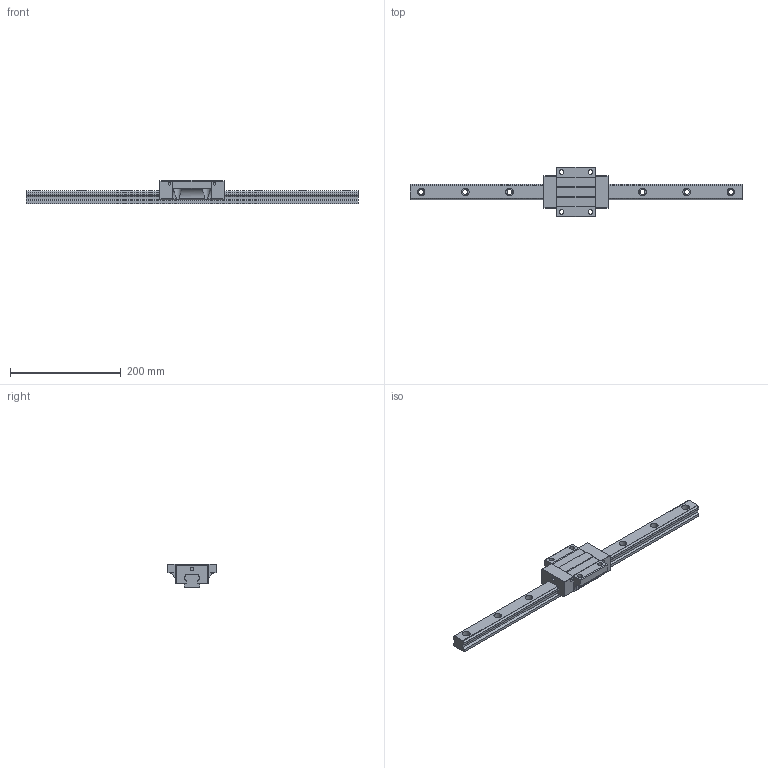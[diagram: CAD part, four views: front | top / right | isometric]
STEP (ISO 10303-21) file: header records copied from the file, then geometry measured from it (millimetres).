
FILE_DESCRIPTION (( 'STEP AP203' ), '1' );
FILE_NAME ('TRH30FN-WZ.STEP', '2024-05-09T01:54:57', ( '' ), ( '' ), 'SwSTEP 2.0', 'SolidWorks 2022', '' );
FILE_SCHEMA (( 'CONFIG_CONTROL_DESIGN' ));
Length unit declared in the file: millimetre
Products named in the file (1): TRH30FN-WZ
Bounding box: 600 x 90 x 42 mm (x, y, z)
Volume: 537395.1 mm3; surface area: 107659.8 mm2
Topology: 2 solids, 2 shells, 237 faces, 634 edges, 415 vertices
Faces by surface type: cylinder 126, plane 102, sphere 9
Entity records: 8358 total; most frequent: CARTESIAN_POINT 2223, DIRECTION 1278, ORIENTED_EDGE 1268, EDGE_CURVE 634, AXIS2_PLACEMENT_3D 459, VERTEX_POINT 415, VECTOR 360, LINE 360
